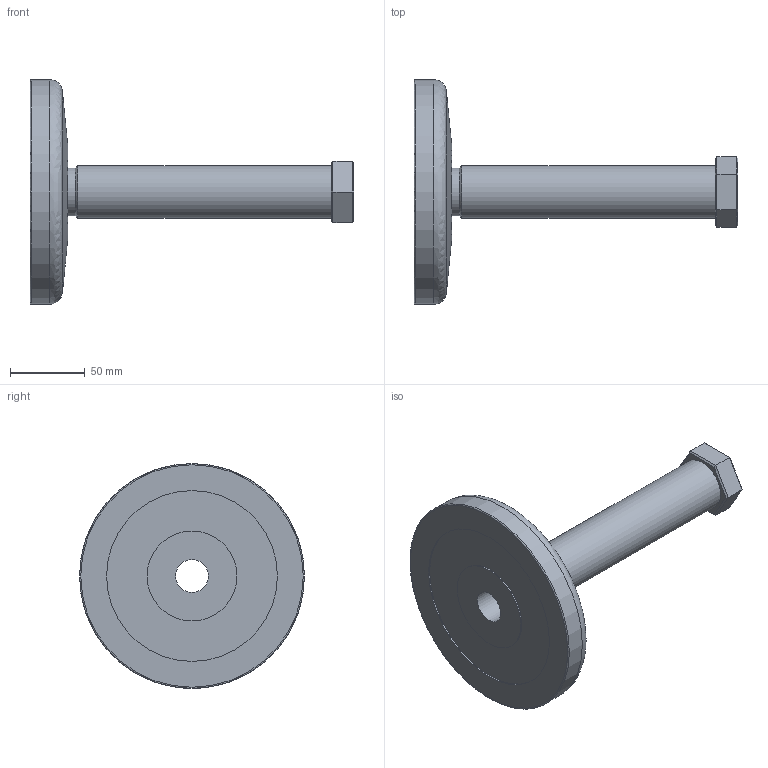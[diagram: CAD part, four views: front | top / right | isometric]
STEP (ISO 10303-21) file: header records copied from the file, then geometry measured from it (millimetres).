
FILE_DESCRIPTION(('STEP AP203'),'2;1');
FILE_NAME('12625F.stp','2014-07-29T08:51:02',(''),(''),'2008.1.107','THINKDESIGN','');
FILE_SCHEMA(('CONFIG_CONTROL_DESIGN'));
Length unit declared in the file: millimetre
Bounding box: 216 x 150 x 150 mm (x, y, z)
Volume: 501695.3 mm3; surface area: 83139.4 mm2
Topology: 3 solids, 3 shells, 42 faces, 105 edges, 72 vertices
Faces by surface type: bspline 20, plane 14, cylinder 8
Full cylindrical faces by diameter (mm): 22 x3, 32 x1, 35 x1, 60 x1, 114 x1, 150 x1
Entity records: 1883 total; most frequent: CARTESIAN_POINT 692, ORIENTED_EDGE 208, DIRECTION 199, EDGE_CURVE 104, AXIS2_PLACEMENT_3D 72, VERTEX_POINT 70, VECTOR 55, LINE 55
